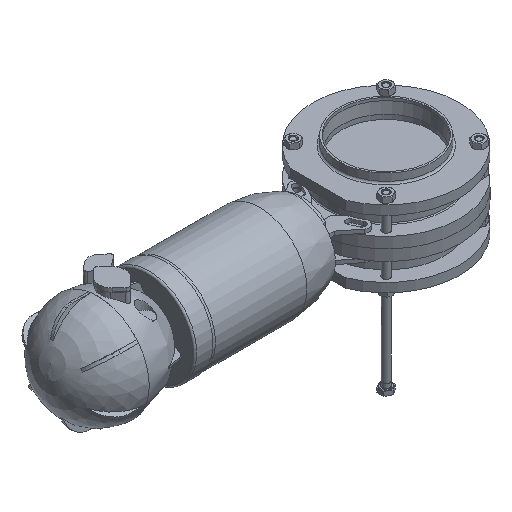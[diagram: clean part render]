
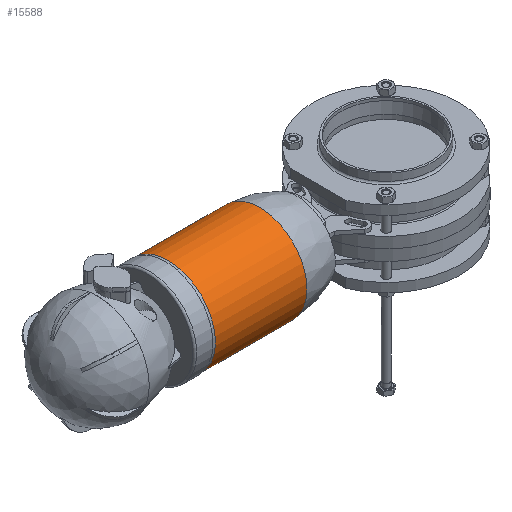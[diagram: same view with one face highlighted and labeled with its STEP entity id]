
A CAD part, isometric view. The second image highlights one B-rep face of the part: STEP entity #15588.
In plain terms, the highlighted cylindrical face has radius 52 mm (diameter 104 mm), a full revolution.
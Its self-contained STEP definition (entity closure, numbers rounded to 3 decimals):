
#2525=FACE_OUTER_BOUND('',#3418,.T.);
#3418=EDGE_LOOP('',(#10892,#10893,#10894,#10895,#10896));
#4361=LINE('',#23916,#5244);
#5244=VECTOR('',#18928,52.);
#6136=CIRCLE('',#16727,52.);
#6137=CIRCLE('',#16729,52.);
#6138=CIRCLE('',#16730,52.);
#6843=VERTEX_POINT('',#23909);
#6844=VERTEX_POINT('',#23913);
#6845=VERTEX_POINT('',#23914);
#8437=EDGE_CURVE('',#6843,#6843,#6136,.T.);
#8439=EDGE_CURVE('',#6844,#6845,#6137,.T.);
#8440=EDGE_CURVE('',#6844,#6843,#4361,.T.);
#8441=EDGE_CURVE('',#6845,#6844,#6138,.T.);
#10892=ORIENTED_EDGE('',*,*,#8439,.F.);
#10893=ORIENTED_EDGE('',*,*,#8440,.T.);
#10894=ORIENTED_EDGE('',*,*,#8437,.T.);
#10895=ORIENTED_EDGE('',*,*,#8440,.F.);
#10896=ORIENTED_EDGE('',*,*,#8441,.F.);
#15484=CYLINDRICAL_SURFACE('',#16728,52.);
#15588=ADVANCED_FACE('',(#2525),#15484,.T.);
#16727=AXIS2_PLACEMENT_3D('',#23910,#18921,#18922);
#16728=AXIS2_PLACEMENT_3D('',#23912,#18924,#18925);
#16729=AXIS2_PLACEMENT_3D('',#23915,#18926,#18927);
#16730=AXIS2_PLACEMENT_3D('',#23917,#18929,#18930);
#18921=DIRECTION('center_axis',(0.,0.,-1.));
#18922=DIRECTION('ref_axis',(0.,1.,0.));
#18924=DIRECTION('center_axis',(0.,0.,-1.));
#18925=DIRECTION('ref_axis',(0.,1.,0.));
#18926=DIRECTION('center_axis',(0.,0.,-1.));
#18927=DIRECTION('ref_axis',(0.,1.,0.));
#18928=DIRECTION('',(0.,0.,1.));
#18929=DIRECTION('center_axis',(0.,0.,-1.));
#18930=DIRECTION('ref_axis',(0.,1.,0.));
#23909=CARTESIAN_POINT('',(0.,-52.,142.5));
#23910=CARTESIAN_POINT('Origin',(0.,0.,142.5));
#23912=CARTESIAN_POINT('Origin',(0.,0.,56.175));
#23913=CARTESIAN_POINT('',(0.,-52.,41.351));
#23914=CARTESIAN_POINT('',(52.,0.,41.351));
#23915=CARTESIAN_POINT('Origin',(0.,0.,41.351));
#23916=CARTESIAN_POINT('',(0.,-52.,56.175));
#23917=CARTESIAN_POINT('Origin',(0.,0.,41.351));
